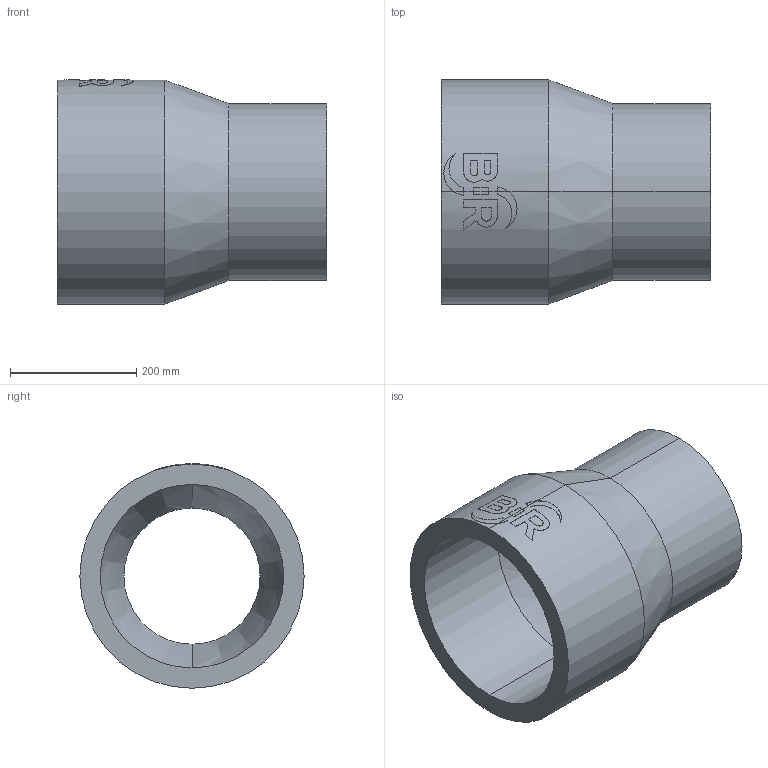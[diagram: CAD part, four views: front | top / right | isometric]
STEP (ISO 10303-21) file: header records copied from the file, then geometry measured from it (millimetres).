
FILE_DESCRIPTION (( 'STEP AP214' ), '1' );
FILE_NAME ('2323242215.STEP', '2018-07-20T10:55:43', ( '' ), ( '' ), 'SwSTEP 2.0', 'SolidWorks 2017', '' );
FILE_SCHEMA (( 'AUTOMOTIVE_DESIGN' ));
Length unit declared in the file: millimetre
Products named in the file (1): 2323242215
Bounding box: 426 x 355 x 355.46 mm (x, y, z)
Volume: 12526400.5 mm3; surface area: 836096.9 mm2
Topology: 1 solids, 1 shells, 63 faces, 160 edges, 104 vertices
Faces by surface type: cylinder 31, plane 28, cone 4
Entity records: 3452 total; most frequent: CARTESIAN_POINT 1243, ORIENTED_EDGE 320, DIRECTION 296, EDGE_CURVE 160, AXIS2_PLACEMENT_3D 112, VERTEX_POINT 104, VECTOR 72, LINE 72
